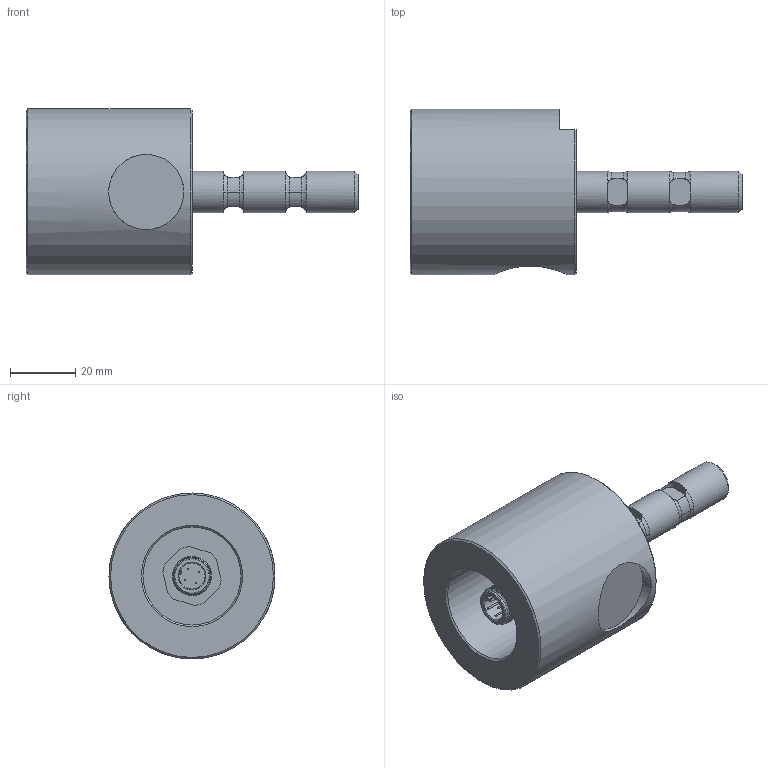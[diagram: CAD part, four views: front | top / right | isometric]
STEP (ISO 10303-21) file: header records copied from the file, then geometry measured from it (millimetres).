
FILE_DESCRIPTION(('HOOPS Exchange Step'),'2;1');
FILE_NAME('C:\Users\tom\AppData\Local\Temp\Alibre Design\export-7034B7DF-6C3C-4BC3-B008-3B9ECD998FBE.stp','2021-10-13T14:54:26+02:00',('tom'),('Alibre'),'HOOPS Exchange 2021.0','Alibre','Unknown authorisation');
FILE_SCHEMA( ('AP242_MANAGED_MODEL_BASED_3D_ENGINEERING_MIM_LF {1 0 10303 442 1 1 4 }') );
Length unit declared in the file: centimetre
Products named in the file (3): mb1803_001(a); M12-4P-Stecker-mit-Farbcode; mb1803_000(a)
Assembly tree (2 placements, depth 2):
  mb1803_000(a)
    mb1803_001(a)
    M12-4P-Stecker-mit-Farbcode
Bounding box: 101.6 x 50.8 x 50.8 mm (x, y, z)
Volume: 152659.2 mm3; surface area: 91661.5 mm2
Topology: 6 solids, 7 shells, 241 faces, 615 edges, 397 vertices
Faces by surface type: cylinder 82, cone 78, plane 67, torus 14
Full cylindrical faces by diameter (mm): 0.5 x8, 8 x2, 10 x2, 11 x1, 11.5 x1, 12 x21, 12.7 x3, 13 x2, 14 x1, 14.5 x1, 23 x1, 30 x1, 50.8 x1
Entity records: 8101 total; most frequent: CARTESIAN_POINT 1971, DIRECTION 1367, ORIENTED_EDGE 1248, EDGE_CURVE 615, AXIS2_PLACEMENT_3D 576, VERTEX_POINT 397, CIRCLE 327, EDGE_LOOP 262
